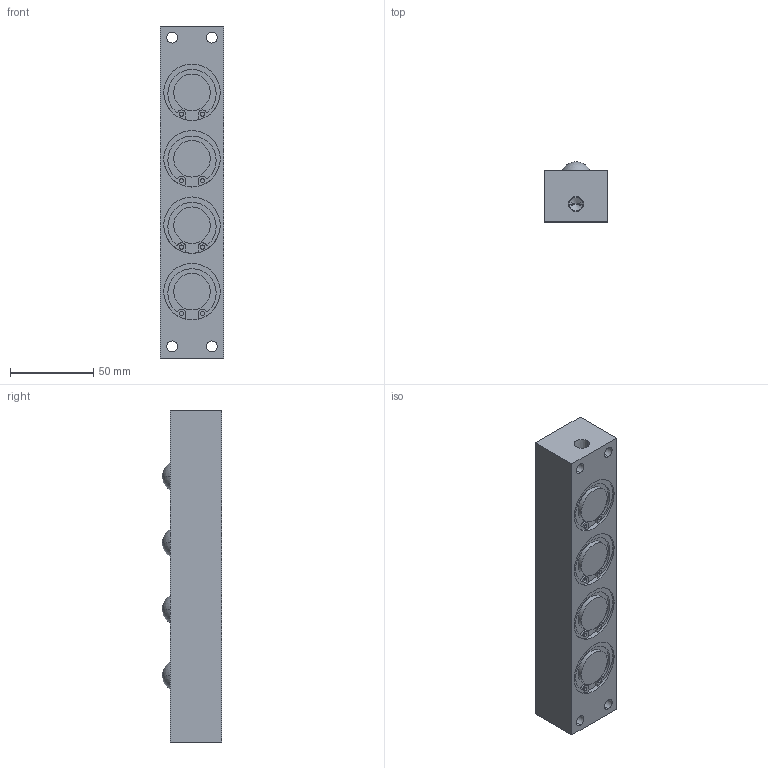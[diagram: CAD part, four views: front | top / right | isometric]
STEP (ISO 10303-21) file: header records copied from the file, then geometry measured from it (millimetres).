
FILE_DESCRIPTION (( 'STEP AP203' ), '1' );
FILE_NAME ('PVL30S-4.STEP', '2016-01-05T04:53:27', ( '' ), ( '' ), 'SwSTEP 2.0', 'SolidWorks 2013', '' );
FILE_SCHEMA (( 'CONFIG_CONTROL_DESIGN' ));
Length unit declared in the file: millimetre
Products named in the file (1): PVL30S-4
Bounding box: 38 x 36 x 200 mm (x, y, z)
Volume: 227391.5 mm3; surface area: 38934.6 mm2
Topology: 1 solids, 1 shells, 157 faces, 368 edges, 245 vertices
Faces by surface type: cylinder 98, plane 47, sphere 8, cone 4
Entity records: 4701 total; most frequent: DIRECTION 906, CARTESIAN_POINT 769, ORIENTED_EDGE 732, AXIS2_PLACEMENT_3D 382, EDGE_CURVE 366, VERTEX_POINT 245, CIRCLE 224, EDGE_LOOP 199
